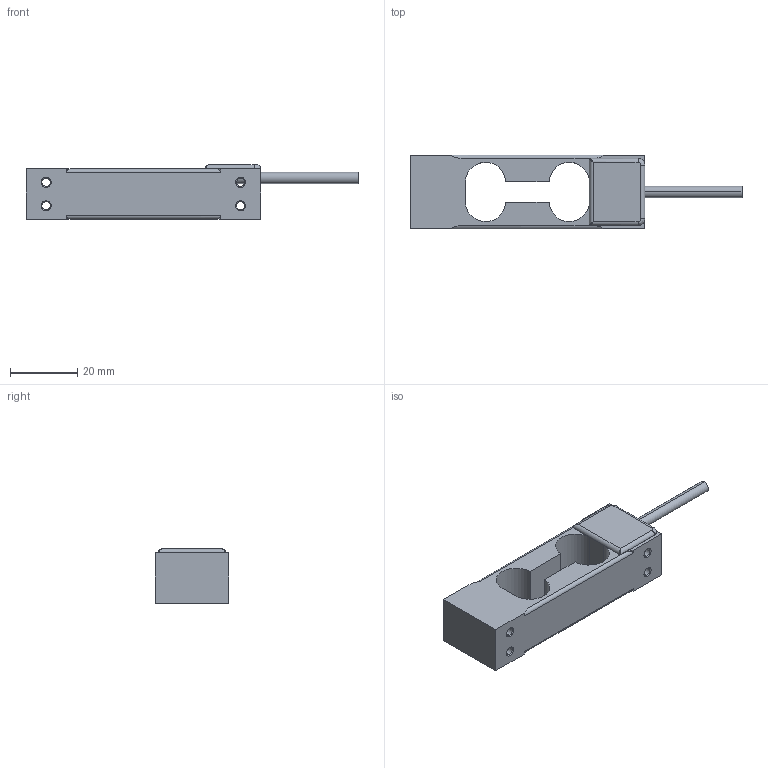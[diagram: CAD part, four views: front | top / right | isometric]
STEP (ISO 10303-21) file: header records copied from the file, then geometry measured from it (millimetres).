
FILE_DESCRIPTION (( 'STEP AP203' ), '1' );
FILE_NAME ('Load_Cell_HISPL.STEP', '2014-10-07T23:55:02', ( '' ), ( '' ), 'SwSTEP 2.0', 'SolidWorks 2013', '' );
FILE_SCHEMA (( 'CONFIG_CONTROL_DESIGN' ));
Length unit declared in the file: millimetre
Products named in the file (1): Load_Cell_HISPL
Bounding box: 99 x 22 x 16.2 mm (x, y, z)
Volume: 16650.9 mm3; surface area: 7646.4 mm2
Topology: 1 solids, 1 shells, 77 faces, 195 edges, 118 vertices
Faces by surface type: cylinder 37, cone 20, plane 16, bspline 4
Entity records: 2676 total; most frequent: CARTESIAN_POINT 733, DIRECTION 399, ORIENTED_EDGE 386, EDGE_CURVE 193, AXIS2_PLACEMENT_3D 148, VERTEX_POINT 118, VECTOR 103, LINE 103
